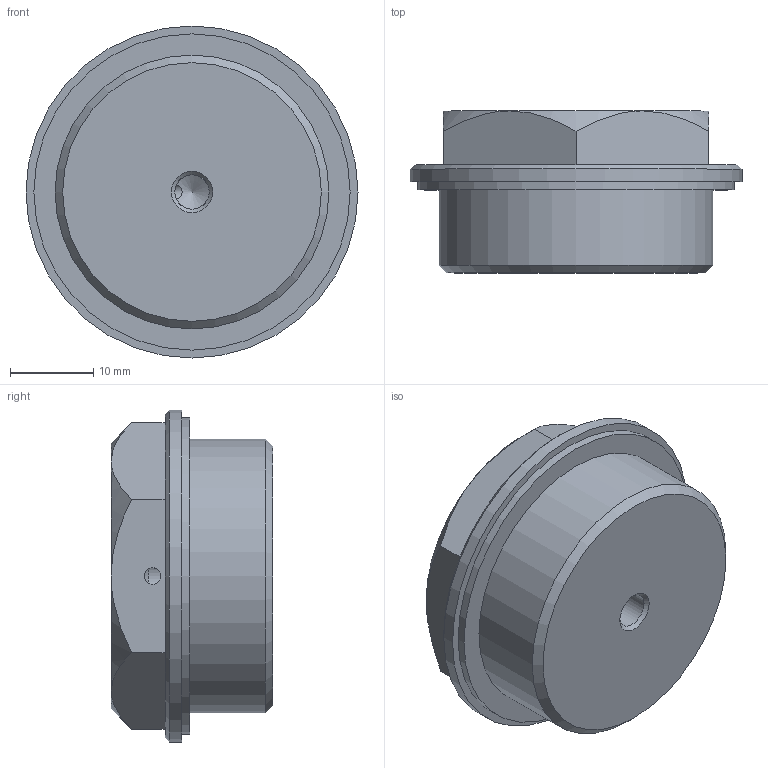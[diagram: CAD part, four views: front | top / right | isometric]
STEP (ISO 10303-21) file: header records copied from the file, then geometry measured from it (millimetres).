
FILE_DESCRIPTION( ( 'STEP AP203' ), '1' );
FILE_NAME( 'C:/Temp/Ganter_Step_05_03_2020/data/3_5/gn742/gn742_2/Threaded plug GN 742-40-M33x1,5-OS-2.stp', '2020-03-12T13:39:44', ( 'License CC BY-ND 4.0' ), ( 'CADENAS' ), ' ', 'PARTsolutions', ' ' );
FILE_SCHEMA( ( 'CONFIG_CONTROL_DESIGN' ) );
Length unit declared in the file: millimetre
Products named in the file (1): _Threaded plug GN 742-40-M33x1,5-OS-2
Bounding box: 40 x 19.5 x 40 mm (x, y, z)
Volume: 17598.2 mm3; surface area: 4763.9 mm2
Topology: 1 solids, 1 shells, 26 faces, 56 edges, 34 vertices
Faces by surface type: plane 11, cone 10, cylinder 5
Full cylindrical faces by diameter (mm): 2 x1, 4.134 x1, 33 x1, 38.1 x1, 40 x1
Entity records: 776 total; most frequent: CARTESIAN_POINT 229, DIRECTION 102, ORIENTED_EDGE 88, AXIS2_PLACEMENT_3D 45, EDGE_CURVE 44, EDGE_LOOP 39, VERTEX_POINT 32, FACE_OUTER_BOUND 31
